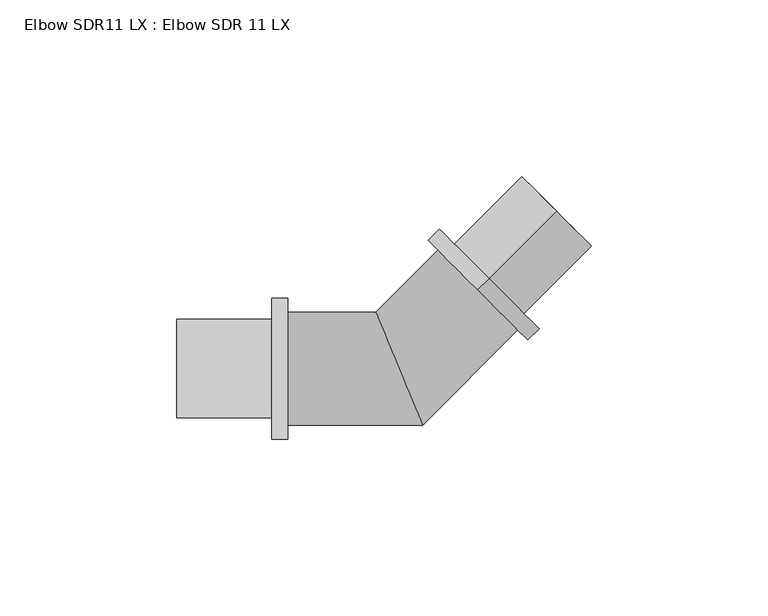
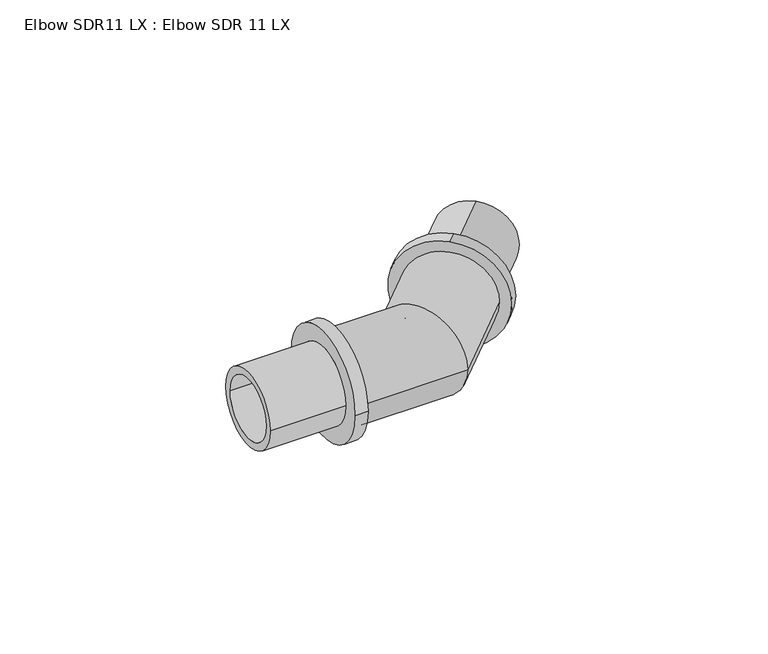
"""IFC4 building model written with IfcOpenShell, lengths in millimetres: pipe fitting geometry, Elbow SDR11 LX : Elbow SDR 11 LX."""

from ifc_helpers import new_model, si_unit, frame, origin, place, context, project, spatial, polyline, circle_curve, ellipse_curve, source, transform, mapped, element, save
from ifc_brep_helpers import plane_surface, cylinder_surface, revolved_surface, advanced_brep


def elbow_sdr11_lx_elbow_sdr_11_lx_e0cd5045(model_context):
    return source(origin(), model_context, "Body", "AdvancedBrep", [
        advanced_brep(
        [(-31.5, -16.0, 0.0), (-31.5, 16.0, 0.0), (-31.5, -11.2, 0.0), (-31.5, 11.2, 0.0), (6.627417, -16.0, 0.0), (-6.627417, 16.0, 0.0), (4.6391919, -11.2, 0.0), (-4.6391919, 11.2, 0.0), (33.5875721, 10.9601551, 0.0), (10.9601551, 33.5875721, 0.0), (30.1934596, 14.3542677, 0.0), (14.3542677, 30.1934596, 0.0)],
        [
            (0, 1, circle_curve(frame((-31.5, 0.0, 0.0), z_axis=(-1.0, 0.0, 0.0), x_axis=(0.0, 1.0, 0.0)), 16.0)),
            (1, 0, circle_curve(frame((-31.5, 0.0, 0.0), z_axis=(-1.0, 0.0, 0.0), x_axis=(0.0, 1.0, 0.0)), 16.0)),
            (2, 3, circle_curve(frame((-31.5, 0.0, 0.0), z_axis=(1.0, 0.0, 0.0), x_axis=(0.0, 1.0, 0.0)), 11.2)),
            (3, 2, circle_curve(frame((-31.5, 0.0, 0.0), z_axis=(1.0, 0.0, 0.0), x_axis=(0.0, 1.0, 0.0)), 11.2)),
            (0, 4),
            (4, 5, ellipse_curve(frame((0.0, 0.0, 0.0), z_axis=(-0.923879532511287, -0.38268343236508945, 0.0), x_axis=(-0.38268343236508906, 0.9238795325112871, 0.0)), 17.3182752, 16.0)),
            (5, 1),
            (5, 4, ellipse_curve(frame((0.0, 0.0, 0.0), z_axis=(-0.923879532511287, -0.38268343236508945, 0.0), x_axis=(-0.38268343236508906, 0.9238795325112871, 0.0)), 17.3182752, 16.0)),
            (2, 6),
            (6, 7, ellipse_curve(frame((0.0, 0.0, 0.0), z_axis=(0.923879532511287, 0.38268343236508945, 0.0), x_axis=(0.38268343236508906, -0.9238795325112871, 0.0)), 12.1227926, 11.2)),
            (7, 3),
            (7, 6, ellipse_curve(frame((0.0, 0.0, 0.0), z_axis=(0.923879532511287, 0.38268343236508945, 0.0), x_axis=(0.38268343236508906, -0.9238795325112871, 0.0)), 12.1227926, 11.2)),
            (8, 9, circle_curve(frame((22.2738636, 22.2738636, 0.0), z_axis=(0.7071067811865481, 0.707106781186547, 0.0), x_axis=(-0.707106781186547, 0.7071067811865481, 0.0)), 16.0)),
            (9, 8, circle_curve(frame((22.2738636, 22.2738636, 0.0), z_axis=(0.7071067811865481, 0.707106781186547, 0.0), x_axis=(-0.707106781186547, 0.7071067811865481, 0.0)), 16.0)),
            (10, 11, circle_curve(frame((22.2738636, 22.2738636, 0.0), z_axis=(-0.7071067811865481, -0.707106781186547, 0.0), x_axis=(-0.707106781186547, 0.7071067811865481, 0.0)), 11.2)),
            (11, 10, circle_curve(frame((22.2738636, 22.2738636, 0.0), z_axis=(-0.7071067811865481, -0.707106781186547, 0.0), x_axis=(-0.707106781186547, 0.7071067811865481, 0.0)), 11.2)),
            (4, 8),
            (9, 5),
            (6, 10),
            (11, 7),
        ],
        [
            plane_surface(frame((-31.5, 0.0, 0.0), z_axis=(-1.0, 0.0, 0.0), x_axis=(0.0, 0.0, 1.0))),
            cylinder_surface(frame((-31.5, 0.0, 0.0), z_axis=(-1.0, 0.0, 0.0), x_axis=(0.0, 1.0, 0.0)), 16.0),
            revolved_surface(polyline([(4.6391919, 11.2, 0.0), (-31.5, 11.2, 0.0)]), (-31.5, 0.0, 0.0), (1.0, 0.0, 0.0)),
            plane_surface(frame((22.2738636, 22.2738636, 0.0), z_axis=(0.7071067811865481, 0.707106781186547, 0.0), x_axis=(0.0, 0.0, 1.0))),
            cylinder_surface(frame((0.0, 0.0, 0.0), z_axis=(-0.7071067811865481, -0.707106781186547, 0.0), x_axis=(-0.707106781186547, 0.7071067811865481, 0.0)), 16.0),
            revolved_surface(polyline([(14.354267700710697, 30.19345959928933, 0.0), (-11.199999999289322, 4.639191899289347, 0.0)]), (0.0, 0.0, 0.0), (0.7071067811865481, 0.707106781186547, 0.0)),
        ],
        [
            (0, [[1, 2], [3, 4]]),
            (1, [[-1, 5, 6, 7]]),
            (1, [[-2, -7, 8, -5]]),
            (2, [[-3, 9, 10, 11]]),
            (2, [[-4, -11, 12, -9]]),
            (3, [[13, 14], [15, 16]]),
            (4, [[-6, 17, -14, 18]]),
            (4, [[-8, -18, -13, -17]]),
            (5, [[-10, 19, -16, 20]]),
            (5, [[-12, -20, -15, -19]]),
        ],
    ),
        advanced_brep(
        [(44.5477272, 44.5477272, 11.2), (44.5477272, 44.5477272, -11.2), (22.2738636, 22.2738636, -11.2), (22.2738636, 22.2738636, 11.2), (25.4558441, 25.4558441, 13.95), (25.4558441, 25.4558441, -13.95), (44.5477272, 44.5477272, -13.95), (44.5477272, 44.5477272, 13.95), (22.2738636, 22.2738636, 20.0), (22.2738636, 22.2738636, -20.0), (25.4558441, 25.4558441, -20.0), (25.4558441, 25.4558441, 20.0)],
        [
            (0, 1, circle_curve(frame((44.5477272, 44.5477272, 0.0), z_axis=(0.7071067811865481, 0.7071067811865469, 0.0), x_axis=(0.0, 0.0, -1.0)), 11.2)),
            (1, 2),
            (2, 3, circle_curve(frame((22.2738636, 22.2738636, 0.0), z_axis=(-0.7071067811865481, -0.7071067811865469, 0.0), x_axis=(0.0, 0.0, -1.0)), 11.2)),
            (3, 0),
            (4, 5, circle_curve(frame((25.4558441, 25.4558441, 0.0), z_axis=(0.7071067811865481, 0.7071067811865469, 0.0), x_axis=(0.0, 0.0, -1.0)), 13.95)),
            (5, 6),
            (6, 7, circle_curve(frame((44.5477272, 44.5477272, 0.0), z_axis=(-0.7071067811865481, -0.7071067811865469, 0.0), x_axis=(0.0, 0.0, -1.0)), 13.95)),
            (7, 4),
            (8, 9, circle_curve(frame((22.2738636, 22.2738636, 0.0), z_axis=(0.7071067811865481, 0.7071067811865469, 0.0), x_axis=(0.0, 0.0, -1.0)), 20.0)),
            (9, 10),
            (10, 11, circle_curve(frame((25.4558441, 25.4558441, 0.0), z_axis=(-0.7071067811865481, -0.7071067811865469, 0.0), x_axis=(0.0, 0.0, -1.0)), 20.0)),
            (11, 8),
            (1, 0, circle_curve(frame((44.5477272, 44.5477272, 0.0), z_axis=(0.7071067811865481, 0.7071067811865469, 0.0), x_axis=(0.0, 0.0, 1.0)), 11.2)),
            (3, 2, circle_curve(frame((22.2738636, 22.2738636, 0.0), z_axis=(-0.7071067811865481, -0.7071067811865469, 0.0), x_axis=(0.0, 0.0, 1.0)), 11.2)),
            (6, 7, circle_curve(frame((44.5477272, 44.5477272, 0.0), z_axis=(0.7071067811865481, 0.7071067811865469, 0.0), x_axis=(0.0, 0.0, 1.0)), 13.95)),
            (5, 4, circle_curve(frame((25.4558441, 25.4558441, 0.0), z_axis=(0.7071067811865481, 0.7071067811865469, 0.0), x_axis=(0.0, 0.0, 1.0)), 13.95)),
            (10, 11, circle_curve(frame((25.4558441, 25.4558441, 0.0), z_axis=(0.7071067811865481, 0.7071067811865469, 0.0), x_axis=(0.0, 0.0, 1.0)), 20.0)),
            (9, 8, circle_curve(frame((22.2738636, 22.2738636, 0.0), z_axis=(0.7071067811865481, 0.7071067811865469, 0.0), x_axis=(0.0, 0.0, 1.0)), 20.0)),
        ],
        [
            revolved_surface(polyline([(22.273863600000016, 22.273863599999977, -11.2), (44.54772720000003, 44.547727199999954, -11.2)]), (0.0, 0.0, 0.0), (-0.7071067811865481, -0.7071067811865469, 0.0)),
            cylinder_surface(frame((0.0, 0.0, 0.0), z_axis=(-0.7071067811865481, -0.7071067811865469, 0.0), x_axis=(0.0, 0.0, -1.0)), 13.95),
            cylinder_surface(frame((0.0, 0.0, 0.0), z_axis=(-0.7071067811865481, -0.7071067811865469, 0.0), x_axis=(0.0, 0.0, -1.0)), 20.0),
            revolved_surface(polyline([(22.273863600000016, 22.273863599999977, 11.2), (44.54772720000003, 44.547727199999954, 11.2)]), (0.0, 0.0, 0.0), (-0.7071067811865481, -0.7071067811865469, 0.0)),
            plane_surface(frame((44.5477272, 44.5477272, 0.0), z_axis=(0.7071067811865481, 0.7071067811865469, 0.0), x_axis=(0.0, 0.0, 1.0))),
            cylinder_surface(frame((0.0, 0.0, 0.0), z_axis=(-0.7071067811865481, -0.7071067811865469, 0.0), x_axis=(0.0, 0.0, 1.0)), 13.95),
            plane_surface(frame((25.4558441, 25.4558441, 0.0), z_axis=(0.7071067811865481, 0.7071067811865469, 0.0), x_axis=(0.0, 0.0, 1.0))),
            cylinder_surface(frame((0.0, 0.0, 0.0), z_axis=(-0.7071067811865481, -0.7071067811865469, 0.0), x_axis=(0.0, 0.0, 1.0)), 20.0),
            plane_surface(frame((22.2738636, 22.2738636, 0.0), z_axis=(-0.7071067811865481, -0.7071067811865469, 0.0), x_axis=(0.0, 0.0, 1.0))),
        ],
        [
            (0, [[1, 2, 3, 4]]),
            (1, [[5, 6, 7, 8]]),
            (2, [[9, 10, 11, 12]]),
            (3, [[13, -4, 14, -2]]),
            (4, [[15, -7], [-13, -1]]),
            (5, [[16, -8, -15, -6]]),
            (6, [[17, -11], [-16, -5]]),
            (7, [[18, -12, -17, -10]]),
            (8, [[-18, -9], [-14, -3]]),
        ],
    ),
        advanced_brep(
        [(-31.5, 20.0, 0.0), (-31.5, -20.0, 0.0), (-36.0, -20.0, 0.0), (-36.0, 20.0, 0.0), (-36.0, 13.95, 0.0), (-36.0, -13.95, 0.0), (-63.0, -13.95, 0.0), (-63.0, 13.95, 0.0), (-63.0, 11.2, 0.0), (-63.0, -11.2, 0.0), (-31.5, -11.2, 0.0), (-31.5, 11.2, 0.0)],
        [
            (0, 1, circle_curve(frame((-31.5, 0.0, 0.0), z_axis=(-1.0, 0.0, 0.0), x_axis=(0.0, -1.0, 0.0)), 20.0)),
            (1, 2),
            (2, 3, circle_curve(frame((-36.0, 0.0, 0.0), z_axis=(1.0, 0.0, 0.0), x_axis=(0.0, -1.0, 0.0)), 20.0)),
            (3, 0),
            (4, 5, circle_curve(frame((-36.0, 0.0, 0.0), z_axis=(-1.0, 0.0, 0.0), x_axis=(0.0, -1.0, 0.0)), 13.95)),
            (5, 6),
            (6, 7, circle_curve(frame((-63.0, 0.0, 0.0), z_axis=(1.0, 0.0, 0.0), x_axis=(0.0, -1.0, 0.0)), 13.95)),
            (7, 4),
            (8, 9, circle_curve(frame((-63.0, 0.0, 0.0), z_axis=(-1.0, 0.0, 0.0), x_axis=(0.0, -1.0, 0.0)), 11.2)),
            (9, 10),
            (10, 11, circle_curve(frame((-31.5, 0.0, 0.0), z_axis=(1.0, 0.0, 0.0), x_axis=(0.0, -1.0, 0.0)), 11.2)),
            (11, 8),
            (0, 1, circle_curve(frame((-31.5, 0.0, 0.0), z_axis=(1.0, 0.0, 0.0), x_axis=(0.0, 1.0, 0.0)), 20.0)),
            (10, 11, circle_curve(frame((-31.5, 0.0, 0.0), z_axis=(-1.0, 0.0, 0.0), x_axis=(0.0, 1.0, 0.0)), 11.2)),
            (3, 2, circle_curve(frame((-36.0, 0.0, 0.0), z_axis=(1.0, 0.0, 0.0), x_axis=(0.0, 1.0, 0.0)), 20.0)),
            (4, 5, circle_curve(frame((-36.0, 0.0, 0.0), z_axis=(1.0, 0.0, 0.0), x_axis=(0.0, 1.0, 0.0)), 13.95)),
            (7, 6, circle_curve(frame((-63.0, 0.0, 0.0), z_axis=(1.0, 0.0, 0.0), x_axis=(0.0, 1.0, 0.0)), 13.95)),
            (8, 9, circle_curve(frame((-63.0, 0.0, 0.0), z_axis=(1.0, 0.0, 0.0), x_axis=(0.0, 1.0, 0.0)), 11.2)),
        ],
        [
            cylinder_surface(frame((0.0, 0.0, 0.0), z_axis=(1.0, 0.0, 0.0), x_axis=(0.0, -1.0, 0.0)), 20.0),
            cylinder_surface(frame((0.0, 0.0, 0.0), z_axis=(1.0, 0.0, 0.0), x_axis=(0.0, -1.0, 0.0)), 13.95),
            revolved_surface(polyline([(-31.5, -11.2, 0.0), (-63.0, -11.2, 0.0)]), (0.0, 0.0, 0.0), (1.0, 0.0, 0.0)),
            plane_surface(frame((-31.5, 0.0, 0.0), z_axis=(1.0, 0.0, 0.0), x_axis=(0.0, 1.0, 0.0))),
            cylinder_surface(frame((0.0, 0.0, 0.0), z_axis=(1.0, 0.0, 0.0), x_axis=(0.0, 1.0, 0.0)), 20.0),
            plane_surface(frame((-36.0, 0.0, 0.0), z_axis=(-1.0, 0.0, 0.0), x_axis=(0.0, 1.0, 0.0))),
            cylinder_surface(frame((0.0, 0.0, 0.0), z_axis=(1.0, 0.0, 0.0), x_axis=(0.0, 1.0, 0.0)), 13.95),
            plane_surface(frame((-63.0, 0.0, 0.0), z_axis=(-1.0, 0.0, 0.0), x_axis=(0.0, 1.0, 0.0))),
            revolved_surface(polyline([(-31.5, 11.2, 0.0), (-63.0, 11.2, 0.0)]), (0.0, 0.0, 0.0), (1.0, 0.0, 0.0)),
        ],
        [
            (0, [[1, 2, 3, 4]]),
            (1, [[5, 6, 7, 8]]),
            (2, [[9, 10, 11, 12]]),
            (3, [[13, -1], [14, -11]]),
            (4, [[-13, -4, 15, -2]]),
            (5, [[-15, -3], [16, -5]]),
            (6, [[-16, -8, 17, -6]]),
            (7, [[-17, -7], [18, -9]]),
            (8, [[-18, -12, -14, -10]]),
        ],
    ),
    ])


if __name__ == "__main__":
    model = new_model("IFC4")
    model_context = context("Model", 3, world=origin())
    ifc_project = project(units=[si_unit("LENGTHUNIT", "METRE", prefix="MILLI")], contexts=[model_context])
    site = spatial("IfcSite", under=ifc_project)
    building = spatial("IfcBuilding", under=site)
    placement = place(None, origin())
    elbow_sdr11_lx_elbow_sdr_11_lx_shape = elbow_sdr11_lx_elbow_sdr_11_lx_e0cd5045(model_context)
    element("IfcPipeFitting", 1, ObjectType="Elbow SDR11 LX : Elbow SDR 11 LX", at=placement, inside=building, context=model_context, shape_type="MappedRepresentation", body=[
        mapped(elbow_sdr11_lx_elbow_sdr_11_lx_shape, transform((0.0, 0.0, 0.0), x_axis=(1.0, 0.0, 0.0), y_axis=(0.0, 1.0, 0.0), z_axis=(0.0, 0.0, 1.0))),
    ])
    save(model, "model.ifc")
